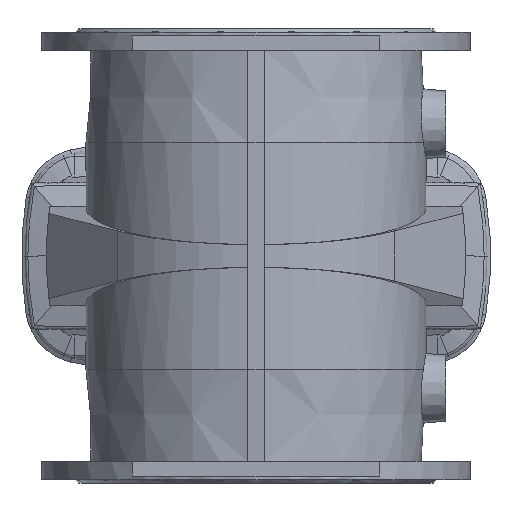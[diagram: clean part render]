
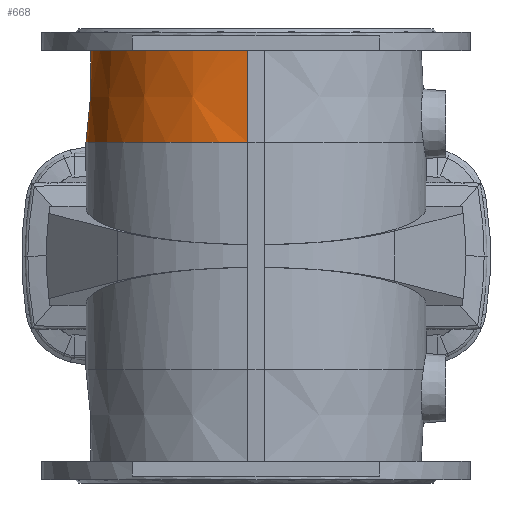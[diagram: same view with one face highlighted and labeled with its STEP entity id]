
A CAD part, front view. The second image highlights one B-rep face of the part: STEP entity #668.
In plain terms, the highlighted conical face has half-angle 3.094 degrees and reference radius 198.568 mm.
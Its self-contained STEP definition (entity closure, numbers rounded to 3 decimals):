
#231 = B_SPLINE_CURVE_WITH_KNOTS ( 'NONE', 3,
 ( #7382, #7377, #7383, #7384, #7385, #7386, #7387 ),
 .UNSPECIFIED., .F., .F.,
 ( 4, 3, 4 ),
 ( 0.109, 0.206, 0.22 ),
 .UNSPECIFIED. ) ;
#233 = B_SPLINE_CURVE_WITH_KNOTS ( 'NONE', 3,
 ( #7366, #7361, #7360, #7367, #7368, #7369, #7370 ),
 .UNSPECIFIED., .F., .F.,
 ( 4, 3, 4 ),
 ( 0.111, 0.207, 0.222 ),
 .UNSPECIFIED. ) ;
#668 = ADVANCED_FACE ( 'NONE', ( #12317 ), #12330, .T. ) ;
#1352 = CIRCLE ( 'NONE', #5784, 206. ) ;
#1455 = CIRCLE ( 'NONE', #5821, 200. ) ;
#2820 = VERTEX_POINT ( 'NONE', #7027 ) ;
#3373 = EDGE_CURVE ( 'NONE', #5117, #5104, #1352, .T. ) ;
#3374 = EDGE_CURVE ( 'NONE', #4806, #5117, #233, .T. ) ;
#3379 = EDGE_CURVE ( 'NONE', #2820, #5104, #231, .T. ) ;
#3491 = EDGE_CURVE ( 'NONE', #2820, #4806, #1455, .T. ) ;
#3640 = EDGE_LOOP ( 'NONE', ( #18042, #18047, #18043, #18040 ) ) ;
#4806 = VERTEX_POINT ( 'NONE', #10682 ) ;
#5104 = VERTEX_POINT ( 'NONE', #10737 ) ;
#5117 = VERTEX_POINT ( 'NONE', #10748 ) ;
#5784 = AXIS2_PLACEMENT_3D ( 'NONE', #7363, #7364, #7365 ) ;
#5821 = AXIS2_PLACEMENT_3D ( 'NONE', #7887, #7888, #7889 ) ;
#7027 = CARTESIAN_POINT ( 'NONE',  ( -10., -199.75, 248.5 ) ) ;
#7360 = CARTESIAN_POINT ( 'NONE',  ( -7., 203.363, 184.054 ) ) ;
#7361 = CARTESIAN_POINT ( 'NONE',  ( -7., 201.62, 216.277 ) ) ;
#7363 = CARTESIAN_POINT ( 'NONE',  ( 0., 0., 137.5 ) ) ;
#7364 = DIRECTION ( 'NONE',  ( 0., 0., 1. ) ) ;
#7365 = DIRECTION ( 'NONE',  ( 1., 0., 0. ) ) ;
#7366 = CARTESIAN_POINT ( 'NONE',  ( -7., 199.877, 248.5 ) ) ;
#7367 = CARTESIAN_POINT ( 'NONE',  ( -7., 205.106, 151.83 ) ) ;
#7368 = CARTESIAN_POINT ( 'NONE',  ( -7., 205.364, 147.054 ) ) ;
#7369 = CARTESIAN_POINT ( 'NONE',  ( -7., 205.623, 142.277 ) ) ;
#7370 = CARTESIAN_POINT ( 'NONE',  ( -7., 205.881, 137.5 ) ) ;
#7377 = CARTESIAN_POINT ( 'NONE',  ( -10., -201.495, 216.251 ) ) ;
#7382 = CARTESIAN_POINT ( 'NONE',  ( -10., -199.75, 248.5 ) ) ;
#7383 = CARTESIAN_POINT ( 'NONE',  ( -10., -203.24, 184.003 ) ) ;
#7384 = CARTESIAN_POINT ( 'NONE',  ( -10., -204.986, 151.754 ) ) ;
#7385 = CARTESIAN_POINT ( 'NONE',  ( -10., -205.243, 147.003 ) ) ;
#7386 = CARTESIAN_POINT ( 'NONE',  ( -10., -205.5, 142.251 ) ) ;
#7387 = CARTESIAN_POINT ( 'NONE',  ( -10., -205.757, 137.5 ) ) ;
#7887 = CARTESIAN_POINT ( 'NONE',  ( 0., 0., 248.5 ) ) ;
#7888 = DIRECTION ( 'NONE',  ( 0., 0., -1. ) ) ;
#7889 = DIRECTION ( 'NONE',  ( -1., 0., 0. ) ) ;
#10682 = CARTESIAN_POINT ( 'NONE',  ( -7., 199.877, 248.5 ) ) ;
#10737 = CARTESIAN_POINT ( 'NONE',  ( -10., -205.757, 137.5 ) ) ;
#10748 = CARTESIAN_POINT ( 'NONE',  ( -7., 205.881, 137.5 ) ) ;
#12317 = FACE_OUTER_BOUND ( 'NONE', #3640, .T. ) ;
#12330 = CONICAL_SURFACE ( 'NONE', #18385, 198.568, 0.054 ) ;
#18040 = ORIENTED_EDGE ( 'NONE', *, *, #3379, .F. ) ;
#18042 = ORIENTED_EDGE ( 'NONE', *, *, #3491, .T. ) ;
#18043 = ORIENTED_EDGE ( 'NONE', *, *, #3373, .T. ) ;
#18047 = ORIENTED_EDGE ( 'NONE', *, *, #3374, .T. ) ;
#18385 = AXIS2_PLACEMENT_3D ( 'NONE', #18649, #18647, #18645 ) ;
#18645 = DIRECTION ( 'NONE',  ( 1., 0., 0. ) ) ;
#18647 = DIRECTION ( 'NONE',  ( 0., 0., -1. ) ) ;
#18649 = CARTESIAN_POINT ( 'NONE',  ( 0., 0., 275. ) ) ;
